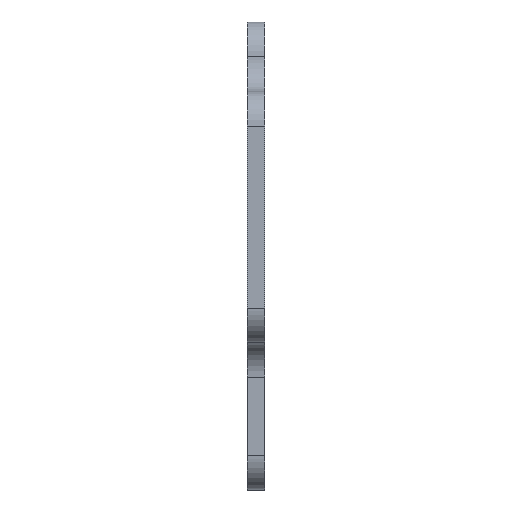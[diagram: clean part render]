
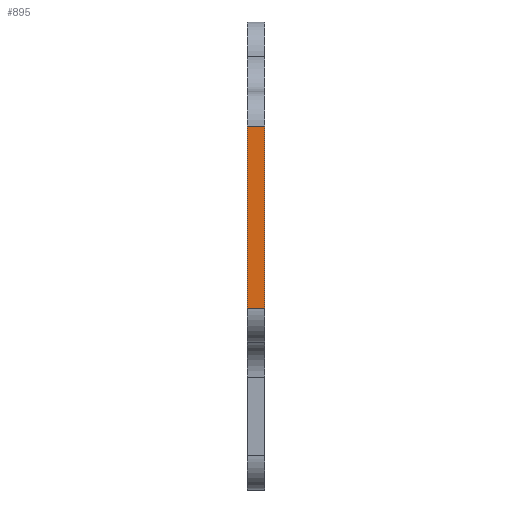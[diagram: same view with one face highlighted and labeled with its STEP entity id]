
A CAD part, left-side view. The second image highlights one B-rep face of the part: STEP entity #895.
In plain terms, the highlighted planar face has unit normal (-1, 0, 0).
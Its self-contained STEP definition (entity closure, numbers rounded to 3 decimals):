
#882=AXIS2_PLACEMENT_3D('Plane Axis2P3D',#879,#880,#881) ;
#183=CARTESIAN_POINT('Vertex',(-14.,-7.4,28.5)) ;
#186=CARTESIAN_POINT('Line Origine',(-14.,-7.4,23.25)) ;
#190=CARTESIAN_POINT('Vertex',(-14.,-7.4,18.)) ;
#583=CARTESIAN_POINT('Vertex',(-14.,-6.4,18.)) ;
#586=CARTESIAN_POINT('Line Origine',(-14.,-6.4,23.25)) ;
#590=CARTESIAN_POINT('Vertex',(-14.,-6.4,28.5)) ;
#869=CARTESIAN_POINT('Control Point',(-14.,-6.4,28.5)) ;
#870=CARTESIAN_POINT('Control Point',(-14.,-7.4,28.5)) ;
#879=CARTESIAN_POINT('Axis2P3D Location',(-14.,-6.4,18.)) ;
#884=CARTESIAN_POINT('Line Origine',(-14.,-6.9,18.)) ;
#187=DIRECTION('Vector Direction',(0.,0.,1.)) ;
#587=DIRECTION('Vector Direction',(0.,0.,1.)) ;
#880=DIRECTION('Axis2P3D Direction',(1.,0.,-0.)) ;
#881=DIRECTION('Axis2P3D XDirection',(0.,0.,1.)) ;
#885=DIRECTION('Vector Direction',(0.,-1.,0.)) ;
#188=VECTOR('Line Direction',#187,1.) ;
#588=VECTOR('Line Direction',#587,1.) ;
#886=VECTOR('Line Direction',#885,1.) ;
#890=ORIENTED_EDGE('',*,*,#192,.T.) ;
#891=ORIENTED_EDGE('',*,*,#871,.F.) ;
#892=ORIENTED_EDGE('',*,*,#592,.F.) ;
#893=ORIENTED_EDGE('',*,*,#888,.T.) ;
#895=ADVANCED_FACE('Body1',(#894),#883,.F.) ;
#868=B_SPLINE_CURVE_WITH_KNOTS('',1,(#869,#870),.UNSPECIFIED.,.F.,.U.,(2,2),(0.,1.),.UNSPECIFIED.) ;
#192=EDGE_CURVE('',#191,#184,#189,.T.) ;
#592=EDGE_CURVE('',#584,#591,#589,.T.) ;
#871=EDGE_CURVE('',#591,#184,#868,.T.) ;
#888=EDGE_CURVE('',#584,#191,#887,.T.) ;
#889=EDGE_LOOP('',(#890,#891,#892,#893)) ;
#894=FACE_OUTER_BOUND('',#889,.T.) ;
#189=LINE('Line',#186,#188) ;
#589=LINE('Line',#586,#588) ;
#887=LINE('Line',#884,#886) ;
#883=PLANE('',#882) ;
#184=VERTEX_POINT('',#183) ;
#191=VERTEX_POINT('',#190) ;
#584=VERTEX_POINT('',#583) ;
#591=VERTEX_POINT('',#590) ;
